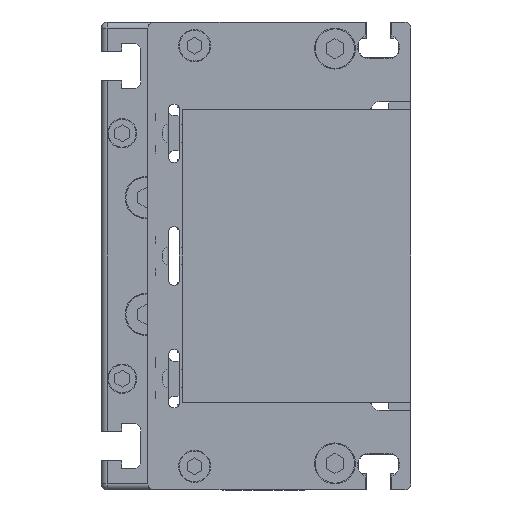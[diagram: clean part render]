
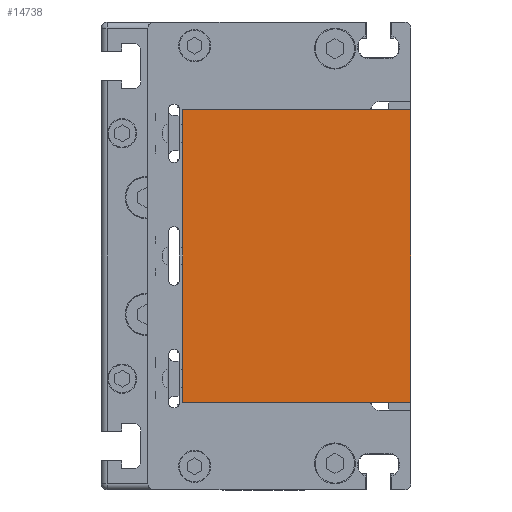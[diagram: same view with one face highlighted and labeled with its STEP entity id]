
A CAD part, left-side view. The second image highlights one B-rep face of the part: STEP entity #14738.
In plain terms, the highlighted planar face has unit normal (-1, 0, 0) as drawn and (0, 0, 1) by its records, which use the part's own axes.
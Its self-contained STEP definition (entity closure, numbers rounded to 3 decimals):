
#86 = VECTOR ( 'NONE', #18932, 1000. ) ;
#649 = CARTESIAN_POINT ( 'NONE',  ( 100., 0., 47.5 ) ) ;
#1005 = CARTESIAN_POINT ( 'NONE',  ( 0., 39., 47.5 ) ) ;
#2110 = CARTESIAN_POINT ( 'NONE',  ( 0., 78., 47.5 ) ) ;
#2575 = VERTEX_POINT ( 'NONE', #2110 ) ;
#3912 = DIRECTION ( 'NONE',  ( 0., 0., -1. ) ) ;
#4023 = LINE ( 'NONE', #17385, #86 ) ;
#5154 = VECTOR ( 'NONE', #17513, 1000. ) ;
#5611 = EDGE_LOOP ( 'NONE', ( #9062, #6783, #13791, #9634 ) ) ;
#6007 = LINE ( 'NONE', #649, #6950 ) ;
#6783 = ORIENTED_EDGE ( 'NONE', *, *, #13453, .F. ) ;
#6950 = VECTOR ( 'NONE', #11084, 1000. ) ;
#6959 = DIRECTION ( 'NONE',  ( 0., -1., 0. ) ) ;
#8623 = EDGE_CURVE ( 'NONE', #12360, #2575, #4023, .T. ) ;
#8788 = CARTESIAN_POINT ( 'NONE',  ( 0., 0., 47.5 ) ) ;
#8917 = VECTOR ( 'NONE', #6959, 1000. ) ;
#9062 = ORIENTED_EDGE ( 'NONE', *, *, #16320, .T. ) ;
#9457 = FACE_OUTER_BOUND ( 'NONE', #5611, .T. ) ;
#9634 = ORIENTED_EDGE ( 'NONE', *, *, #8623, .T. ) ;
#10171 = VERTEX_POINT ( 'NONE', #8788 ) ;
#11084 = DIRECTION ( 'NONE',  ( -1., 0., 0. ) ) ;
#11815 = EDGE_CURVE ( 'NONE', #12360, #19275, #17111, .T. ) ;
#12360 = VERTEX_POINT ( 'NONE', #12765 ) ;
#12765 = CARTESIAN_POINT ( 'NONE',  ( 100., 78., 47.5 ) ) ;
#12880 = PLANE ( 'NONE',  #15675 ) ;
#13453 = EDGE_CURVE ( 'NONE', #19275, #10171, #6007, .T. ) ;
#13791 = ORIENTED_EDGE ( 'NONE', *, *, #11815, .F. ) ;
#14385 = DIRECTION ( 'NONE',  ( 0., 1., 0. ) ) ;
#14738 = ADVANCED_FACE ( 'NONE', ( #9457 ), #12880, .F. ) ;
#15675 = AXIS2_PLACEMENT_3D ( 'NONE', #18807, #3912, #14385 ) ;
#16010 = CARTESIAN_POINT ( 'NONE',  ( 100., 39., 47.5 ) ) ;
#16320 = EDGE_CURVE ( 'NONE', #2575, #10171, #16901, .T. ) ;
#16657 = CARTESIAN_POINT ( 'NONE',  ( 100., 0., 47.5 ) ) ;
#16901 = LINE ( 'NONE', #1005, #8917 ) ;
#17111 = LINE ( 'NONE', #16010, #5154 ) ;
#17385 = CARTESIAN_POINT ( 'NONE',  ( 100., 78., 47.5 ) ) ;
#17513 = DIRECTION ( 'NONE',  ( 0., -1., 0. ) ) ;
#18807 = CARTESIAN_POINT ( 'NONE',  ( 100., 39., 47.5 ) ) ;
#18932 = DIRECTION ( 'NONE',  ( -1., 0., 0. ) ) ;
#19275 = VERTEX_POINT ( 'NONE', #16657 ) ;
